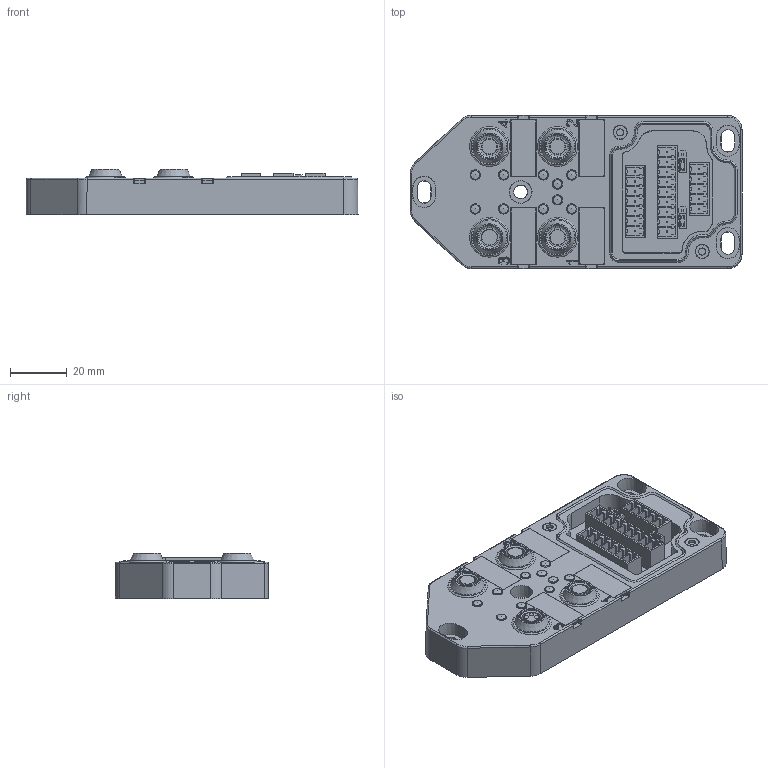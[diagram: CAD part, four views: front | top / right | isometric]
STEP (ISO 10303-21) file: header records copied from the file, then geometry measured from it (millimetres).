
FILE_DESCRIPTION((''),'2;1');
FILE_NAME('C:\Users\enrico\Desktop\Ale\Sito Web Mintec\AUTOMAZIONE_2020\FOTO & STEP Distributori passivi_ciabatte\A cablare\M8 calotta 4 vie.stp','2020-07-23T14:45:24',('Tecnico2'),(''),'Autodesk Inventor 2012','Autodesk Inventor 2012','');
FILE_SCHEMA(('AUTOMOTIVE_DESIGN { 1 0 10303 214 1 1 1 1 }'));
Length unit declared in the file: millimetre
Products named in the file (1): M8 calotta 4 vie
Bounding box: 117 x 54 x 16.2 mm (x, y, z)
Volume: 51595.8 mm3; surface area: 40438.3 mm2
Topology: 3 solids, 22 shells, 1689 faces, 4531 edges, 2998 vertices
Faces by surface type: plane 1108, cylinder 256, cone 179, bspline 115, torus 21, sphere 10
Full cylindrical faces by diameter (mm): 1.2 x3, 1.65 x3, 1.75 x3, 2.5 x2, 3.6 x10, 4.75 x2, 5 x2, 5.434 x1, 5.7 x3, 6.917 x4, 7.3 x1, 8.4 x8, 8.7 x4, 10.8 x4, 14 x4
Entity records: 57028 total; most frequent: CARTESIAN_POINT 14026, ORIENTED_EDGE 8580, DIRECTION 8155, EDGE_CURVE 4290, VECTOR 3007, LINE 3007, VERTEX_POINT 2899, AXIS2_PLACEMENT_3D 2574
